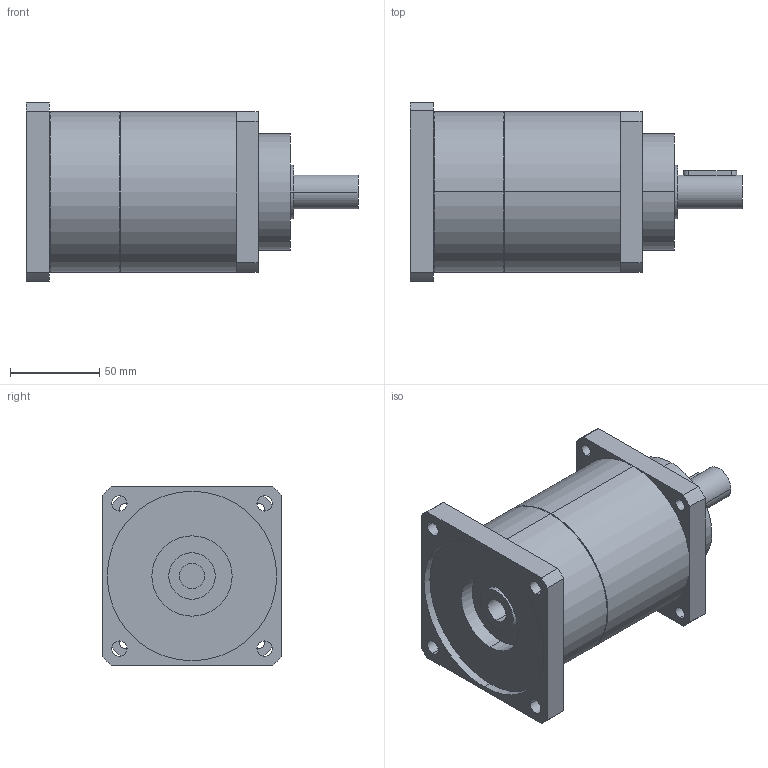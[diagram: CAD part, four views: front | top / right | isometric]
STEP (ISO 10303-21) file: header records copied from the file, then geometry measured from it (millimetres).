
FILE_DESCRIPTION(('CoCreate Modeling STEP Export'),'2;1');
FILE_NAME('GPT90_ig-9-12-16-20-25-28-35-40-50-70-100_19_B5T_14_P07.stp','2015-02-04T11:29:11',(''),(''),'CoCreate Modeling STEP processor for AP214 (Solid Model)','CoCreate Modeling 16.00C 25-Feb-2009 (C) Parametric Technology GmbH','');
FILE_SCHEMA(('AUTOMOTIVE_DESIGN { 1 0 10303 214 1 1 1 1 }'));
Length unit declared in the file: millimetre
Products named in the file (2): GPT90_ig-9-12-16-20-25-28-35-40-50-70-100_19_B5T_14_P07
Assembly tree (1 placements, depth 2):
  GPT90_ig-9-12-16-20-25-28-35-40-50-70-100_19_B5T_14_P07
    GPT90_ig-9-12-16-20-25-28-35-40-50-70-100_19_B5T_14_P07
Bounding box: 186 x 100 x 100 mm (x, y, z)
Volume: 911262.8 mm3; surface area: 75116 mm2
Topology: 1 solids, 1 shells, 77 faces, 206 edges, 141 vertices
Faces by surface type: cylinder 46, plane 27, cone 4
Entity records: 2596 total; most frequent: CARTESIAN_POINT 742, ORIENTED_EDGE 412, DIRECTION 324, EDGE_CURVE 206, VERTEX_POINT 141, AXIS2_PLACEMENT_3D 120, EDGE_LOOP 103, VECTOR 84
